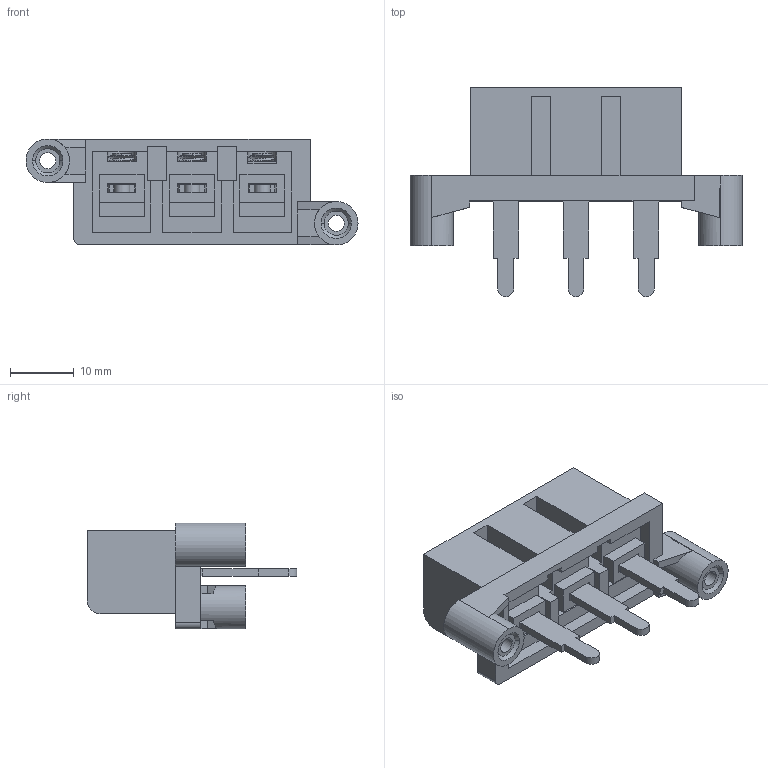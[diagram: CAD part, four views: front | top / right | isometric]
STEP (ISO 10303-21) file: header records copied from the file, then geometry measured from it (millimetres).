
FILE_DESCRIPTION((''),'2;1');
FILE_NAME('3PIN','2021-06-01T',('hanke'),(''),'CREO PARAMETRIC BY PTC INC, 2016260','CREO PARAMETRIC BY PTC INC, 2016260','');
FILE_SCHEMA(('CONFIG_CONTROL_DESIGN'));
Length unit declared in the file: millimetre
Products named in the file (1): 3PIN
Bounding box: 52 x 32.8 x 16.6 mm (x, y, z)
Volume: 5641.6 mm3; surface area: 8441.3 mm2
Topology: 4 solids, 4 shells, 918 faces, 2606 edges, 1693 vertices
Faces by surface type: plane 579, bspline 144, cylinder 139, torus 30, cone 26
Entity records: 42352 total; most frequent: CARTESIAN_POINT 20145, ORIENTED_EDGE 5200, DIRECTION 3756, EDGE_CURVE 2600, VERTEX_POINT 1693, VECTOR 1516, LINE 1516, AXIS2_PLACEMENT_3D 1120
